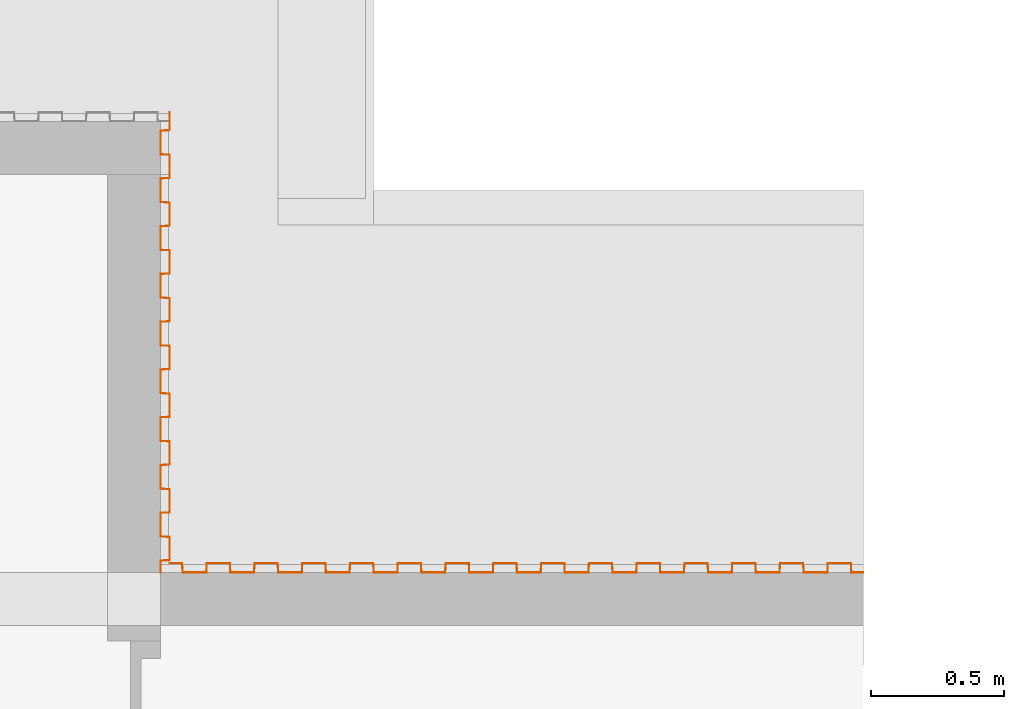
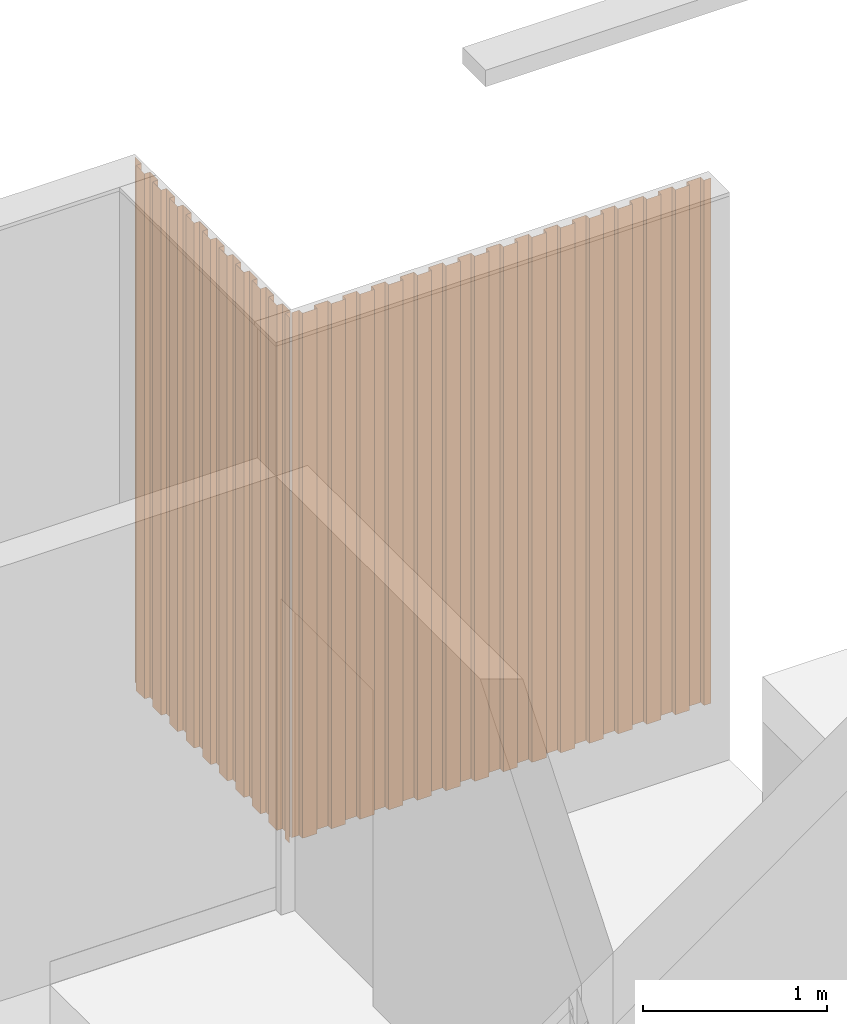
# One storey, part 21 of 22: 2 proxies.
"""IFC2X3 building model written with IfcOpenShell, lengths in millimetres."""

from ifc_helpers import new_model, entity, si_unit, converted_unit, derived_unit, money_unit, direction, frame, origin_with_axes, place, context, subcontext, project, spatial, faceted_brep, material, type_object, element, save


model = new_model("IFC2X3")

# Units and contexts
model_context = context("Model", 3, precision=0.01, world=origin_with_axes(), true_north=direction((0.0, 1.0)))
body_context = subcontext(model_context, "Body", "Model", "MODEL_VIEW")
ifc_project = project(units=[si_unit("LENGTHUNIT", "METRE", prefix="MILLI"), si_unit("AREAUNIT", "SQUARE_METRE"), si_unit("VOLUMEUNIT", "CUBIC_METRE"), converted_unit("PLANEANGLEUNIT", "DEGREE", entity("IfcPlaneAngleMeasure", 0.0174532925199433), si_unit("PLANEANGLEUNIT", "RADIAN"), dimensions=[0, 0, 0, 0, 0, 0, 0]), money_unit("EUR"), converted_unit("TIMEUNIT", "Year", entity("IfcTimeMeasure", 31557600.0), si_unit("TIMEUNIT", "SECOND"), dimensions=[0, 0, 1, 0, 0, 0, 0]), si_unit("MASSUNIT", "GRAM", prefix="KILO"), si_unit("THERMODYNAMICTEMPERATUREUNIT", "DEGREE_CELSIUS"), si_unit("LUMINOUSINTENSITYUNIT", "LUMEN"), si_unit("ENERGYUNIT", "JOULE", prefix="MEGA"), derived_unit("THERMALCONDUCTANCEUNIT", [(si_unit("POWERUNIT", "WATT"), 1), (si_unit("LENGTHUNIT", "METRE"), -1), (si_unit("THERMODYNAMICTEMPERATUREUNIT", "KELVIN"), -1)]), derived_unit("SPECIFICHEATCAPACITYUNIT", [(si_unit("ENERGYUNIT", "JOULE"), 1), (si_unit("MASSUNIT", "GRAM", prefix="KILO"), -1), (si_unit("THERMODYNAMICTEMPERATUREUNIT", "KELVIN"), -1)]), derived_unit("MASSDENSITYUNIT", [(si_unit("MASSUNIT", "GRAM", prefix="KILO"), 1), (si_unit("VOLUMEUNIT", "CUBIC_METRE"), -1)])], contexts=[model_context])

# Site, building, storey
site_placement = place(None, origin_with_axes())
site = spatial("IfcSite", under=ifc_project, at=site_placement, Name="Site", CompositionType="ELEMENT")
building_placement = place(site_placement, origin_with_axes())
building = spatial("IfcBuilding", under=site, at=building_placement, Name="Naam gebouw", CompositionType="ELEMENT")
storey_placement = place(building_placement, frame((0.0, 0.0, 11150.0), z_axis=(0.0, 0.0, 1.0), x_axis=(1.0, 0.0, 0.0)))
storey = spatial("IfcBuildingStorey", under=building, at=storey_placement, Name="3e verdieping/dak N", CompositionType="ELEMENT", Elevation=11150.0)

# Proxies
ifc_material = material(Name="Metaal - Staal AFW")
building_element_proxy_type = type_object("IfcBuildingElementProxyType", Name="Profielplaat 26", PredefinedType="NOTDEFINED")
proxy_1_placement = place(storey_placement, frame((17557.7397738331, 16515.91242510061, 253.9999999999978), z_axis=(0.0, 0.0, 1.0), x_axis=(1.0, 0.0, 0.0)))
element("IfcBuildingElementProxy", 1, at=proxy_1_placement, inside=storey, type_object=building_element_proxy_type, material=ifc_material, Name="_Boom-x", context=body_context, shape_type="Brep", body=[
    faceted_brep([(0.0, 0.0, 0.0), (0.0, 0.0, 3486.000000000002), (0.0, 45.00000000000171, 3486.000000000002), (0.0, 45.00000000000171, 0.0), (0.7, 0.0, 0.0), (0.7, 0.0, 3486.000000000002), (0.6999999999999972, 44.33319049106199, 3486.000000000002), (35.0, 46.00000000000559, 3486.000000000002), (34.99999999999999, 134.0000000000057, 3486.000000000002), (0.6999999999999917, 135.6668095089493, 3486.000000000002), (0.6999999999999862, 224.3331904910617, 3486.000000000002), (34.99999999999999, 226.0000000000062, 3486.000000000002), (34.99999999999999, 314.0000000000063, 3486.000000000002), (0.6999999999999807, 315.6668095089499, 3486.000000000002), (0.6999999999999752, 404.3331904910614, 3486.000000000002), (34.99999999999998, 406.0000000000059, 3486.000000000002), (34.99999999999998, 494.000000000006, 3486.000000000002), (0.6999999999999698, 495.6668095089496, 3486.000000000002), (0.6999999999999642, 584.3331904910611, 3486.000000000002), (34.99999999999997, 586.0000000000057, 3486.000000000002), (34.99999999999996, 674.0000000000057, 3486.000000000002), (0.6999999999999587, 675.6668095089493, 3486.000000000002), (0.6999999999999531, 764.3331904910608, 3486.000000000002), (34.99999999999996, 766.0000000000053, 3486.000000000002), (34.99999999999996, 854.0000000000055, 3486.000000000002), (0.6999999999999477, 855.666809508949, 3486.000000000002), (0.6999999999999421, 944.3331904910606, 3486.000000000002), (34.99999999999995, 946.000000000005, 3486.000000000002), (34.99999999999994, 1034.000000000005, 3486.000000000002), (0.6999999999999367, 1035.666809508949, 3486.000000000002), (0.6999999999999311, 1124.33319049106, 3486.000000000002), (34.99999999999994, 1126.000000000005, 3486.000000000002), (34.99999999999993, 1214.000000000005, 3486.000000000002), (0.6999999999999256, 1215.666809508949, 3486.000000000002), (0.6999999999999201, 1304.33319049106, 3486.000000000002), (34.99999999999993, 1306.000000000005, 3486.000000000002), (34.99999999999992, 1394.000000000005, 3486.000000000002), (0.6999999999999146, 1395.666809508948, 3486.000000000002), (0.699999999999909, 1484.33319049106, 3486.000000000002), (34.99999999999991, 1486.000000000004, 3486.000000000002), (34.99999999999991, 1574.000000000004, 3486.000000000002), (0.6999999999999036, 1575.666809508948, 3486.000000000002), (0.699999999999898, 1664.333190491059, 3486.000000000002), (34.9999999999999, 1666.000000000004, 3486.000000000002), (34.9999999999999, 1734.999999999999, 3486.000000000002), (34.2999999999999, 1734.999999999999, 3486.000000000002), (34.2999999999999, 1666.666809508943, 3486.000000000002), (0.0, 1664.999999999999, 3486.000000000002), (0.0, 1574.999999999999, 3486.000000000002), (34.2999999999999, 1573.333190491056, 3486.000000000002), (34.29999999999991, 1486.666809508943, 3486.000000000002), (0.0, 1485.0, 3486.000000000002), (0.0, 1395.0, 3486.000000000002), (34.29999999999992, 1393.333190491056, 3486.000000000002), (34.29999999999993, 1306.666809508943, 3486.000000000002), (0.0, 1305.0, 3486.000000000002), (0.0, 1215.0, 3486.000000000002), (34.29999999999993, 1213.333190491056, 3486.000000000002), (34.29999999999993, 1126.666809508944, 3486.000000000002), (0.0, 1125.0, 3486.000000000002), (0.0, 1035.0, 3486.000000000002), (34.29999999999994, 1033.333190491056, 3486.000000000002), (34.29999999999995, 946.6668095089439, 3486.000000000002), (0.0, 945.0000000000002, 3486.000000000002), (0.0, 855.0000000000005, 3486.000000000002), (34.29999999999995, 853.3331904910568, 3486.000000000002), (34.29999999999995, 766.6668095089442, 3486.000000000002), (0.0, 765.0000000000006, 3486.000000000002), (0.0, 675.0000000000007, 3486.000000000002), (34.29999999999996, 673.3331904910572, 3486.000000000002), (34.29999999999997, 586.6668095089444, 3486.000000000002), (0.0, 585.0000000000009, 3486.000000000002), (0.0, 495.000000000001, 3486.000000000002), (34.29999999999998, 493.3331904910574, 3486.000000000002), (34.29999999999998, 406.6668095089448, 3486.000000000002), (0.0, 405.0000000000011, 3486.000000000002), (0.0, 315.0000000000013, 3486.000000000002), (34.29999999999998, 313.3331904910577, 3486.000000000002), (34.29999999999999, 226.666809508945, 3486.000000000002), (0.0, 225.0000000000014, 3486.000000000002), (0.0, 135.0000000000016, 3486.000000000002), (34.3, 133.3331904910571, 3486.000000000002), (34.3, 46.66680950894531, 3486.000000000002), (34.3, 46.66680950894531, 0.0), (34.3, 133.3331904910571, 0.0), (0.0, 135.0000000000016, 0.0), (0.0, 225.0000000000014, 0.0), (34.29999999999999, 226.666809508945, 0.0), (34.29999999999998, 313.3331904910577, 0.0), (0.0, 315.0000000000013, 0.0), (0.0, 405.0000000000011, 0.0), (34.29999999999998, 406.6668095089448, 0.0), (34.29999999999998, 493.3331904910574, 0.0), (0.0, 495.000000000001, 0.0), (0.0, 585.0000000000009, 0.0), (34.29999999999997, 586.6668095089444, 0.0), (34.29999999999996, 673.3331904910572, 0.0), (0.0, 675.0000000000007, 0.0), (0.0, 765.0000000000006, 0.0), (34.29999999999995, 766.6668095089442, 0.0), (34.29999999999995, 853.3331904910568, 0.0), (0.0, 855.0000000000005, 0.0), (0.0, 945.0000000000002, 0.0), (34.29999999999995, 946.6668095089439, 0.0), (34.29999999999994, 1033.333190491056, 0.0), (0.0, 1035.0, 0.0), (0.0, 1125.0, 0.0), (34.29999999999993, 1126.666809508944, 0.0), (34.29999999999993, 1213.333190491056, 0.0), (0.0, 1215.0, 0.0), (0.0, 1305.0, 0.0), (34.29999999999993, 1306.666809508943, 0.0), (34.29999999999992, 1393.333190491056, 0.0), (0.0, 1395.0, 0.0), (0.0, 1485.0, 0.0), (34.29999999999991, 1486.666809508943, 0.0), (34.2999999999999, 1573.333190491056, 0.0), (0.0, 1574.999999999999, 0.0), (0.0, 1664.999999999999, 0.0), (34.2999999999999, 1666.666809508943, 0.0), (34.2999999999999, 1734.999999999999, 0.0), (34.9999999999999, 1734.999999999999, 0.0), (34.9999999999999, 1666.000000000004, 0.0), (0.699999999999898, 1664.333190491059, 0.0), (0.6999999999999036, 1575.666809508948, 0.0), (34.99999999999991, 1574.000000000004, 0.0), (34.99999999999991, 1486.000000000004, 0.0), (0.699999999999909, 1484.33319049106, 0.0), (0.6999999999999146, 1395.666809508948, 0.0), (34.99999999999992, 1394.000000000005, 0.0), (34.99999999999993, 1306.000000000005, 0.0), (0.6999999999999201, 1304.33319049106, 0.0), (0.6999999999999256, 1215.666809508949, 0.0), (34.99999999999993, 1214.000000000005, 0.0), (34.99999999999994, 1126.000000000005, 0.0), (0.6999999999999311, 1124.33319049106, 0.0), (0.6999999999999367, 1035.666809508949, 0.0), (34.99999999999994, 1034.000000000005, 0.0), (34.99999999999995, 946.000000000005, 0.0), (0.6999999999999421, 944.3331904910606, 0.0), (0.6999999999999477, 855.666809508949, 0.0), (34.99999999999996, 854.0000000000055, 0.0), (34.99999999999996, 766.0000000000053, 0.0), (0.6999999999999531, 764.3331904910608, 0.0), (0.6999999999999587, 675.6668095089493, 0.0), (34.99999999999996, 674.0000000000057, 0.0), (34.99999999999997, 586.0000000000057, 0.0), (0.6999999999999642, 584.3331904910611, 0.0), (0.6999999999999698, 495.6668095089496, 0.0), (34.99999999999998, 494.000000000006, 0.0), (34.99999999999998, 406.0000000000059, 0.0), (0.6999999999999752, 404.3331904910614, 0.0), (0.6999999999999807, 315.6668095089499, 0.0), (34.99999999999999, 314.0000000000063, 0.0), (34.99999999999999, 226.0000000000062, 0.0), (0.6999999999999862, 224.3331904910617, 0.0), (0.6999999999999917, 135.6668095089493, 0.0), (34.99999999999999, 134.0000000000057, 0.0), (35.0, 46.00000000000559, 0.0), (0.6999999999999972, 44.33319049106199, 0.0)], [[[0, 1, 2, 3]], [[0, 4, 5, 1]], [[2, 1, 5, 6, 7, 8, 9, 10, 11, 12, 13, 14, 15, 16, 17, 18, 19, 20, 21, 22, 23, 24, 25, 26, 27, 28, 29, 30, 31, 32, 33, 34, 35, 36, 37, 38, 39, 40, 41, 42, 43, 44, 45, 46, 47, 48, 49, 50, 51, 52, 53, 54, 55, 56, 57, 58, 59, 60, 61, 62, 63, 64, 65, 66, 67, 68, 69, 70, 71, 72, 73, 74, 75, 76, 77, 78, 79, 80, 81, 82]], [[3, 2, 82, 83]], [[4, 0, 3, 83, 84, 85, 86, 87, 88, 89, 90, 91, 92, 93, 94, 95, 96, 97, 98, 99, 100, 101, 102, 103, 104, 105, 106, 107, 108, 109, 110, 111, 112, 113, 114, 115, 116, 117, 118, 119, 120, 121, 122, 123, 124, 125, 126, 127, 128, 129, 130, 131, 132, 133, 134, 135, 136, 137, 138, 139, 140, 141, 142, 143, 144, 145, 146, 147, 148, 149, 150, 151, 152, 153, 154, 155, 156, 157, 158, 159]], [[159, 6, 5, 4]], [[158, 7, 6, 159]], [[157, 8, 7, 158]], [[156, 9, 8, 157]], [[155, 10, 9, 156]], [[154, 11, 10, 155]], [[153, 12, 11, 154]], [[152, 13, 12, 153]], [[151, 14, 13, 152]], [[150, 15, 14, 151]], [[149, 16, 15, 150]], [[148, 17, 16, 149]], [[147, 18, 17, 148]], [[146, 19, 18, 147]], [[145, 20, 19, 146]], [[144, 21, 20, 145]], [[143, 22, 21, 144]], [[142, 23, 22, 143]], [[141, 24, 23, 142]], [[140, 25, 24, 141]], [[139, 26, 25, 140]], [[138, 27, 26, 139]], [[137, 28, 27, 138]], [[136, 29, 28, 137]], [[135, 30, 29, 136]], [[134, 31, 30, 135]], [[133, 32, 31, 134]], [[132, 33, 32, 133]], [[131, 34, 33, 132]], [[130, 35, 34, 131]], [[129, 36, 35, 130]], [[128, 37, 36, 129]], [[127, 38, 37, 128]], [[126, 39, 38, 127]], [[125, 40, 39, 126]], [[124, 41, 40, 125]], [[123, 42, 41, 124]], [[122, 43, 42, 123]], [[121, 44, 43, 122]], [[120, 45, 44, 121]], [[119, 46, 45, 120]], [[118, 47, 46, 119]], [[117, 48, 47, 118]], [[116, 49, 48, 117]], [[115, 50, 49, 116]], [[114, 51, 50, 115]], [[113, 52, 51, 114]], [[112, 53, 52, 113]], [[111, 54, 53, 112]], [[110, 55, 54, 111]], [[109, 56, 55, 110]], [[108, 57, 56, 109]], [[107, 58, 57, 108]], [[106, 59, 58, 107]], [[105, 60, 59, 106]], [[104, 61, 60, 105]], [[103, 62, 61, 104]], [[102, 63, 62, 103]], [[101, 64, 63, 102]], [[100, 65, 64, 101]], [[99, 66, 65, 100]], [[98, 67, 66, 99]], [[97, 68, 67, 98]], [[96, 69, 68, 97]], [[95, 70, 69, 96]], [[94, 71, 70, 95]], [[93, 72, 71, 94]], [[92, 73, 72, 93]], [[91, 74, 73, 92]], [[90, 75, 74, 91]], [[89, 76, 75, 90]], [[88, 77, 76, 89]], [[87, 78, 77, 88]], [[86, 79, 78, 87]], [[85, 80, 79, 86]], [[84, 81, 80, 85]], [[83, 82, 81, 84]]]),
])
proxy_2_placement = place(storey_placement, frame((20206.00000000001, 16515.91242510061, 253.9999999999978), z_axis=(0.0, 0.0, 1.0), x_axis=(0.0, 1.0, 0.0)))
element("IfcBuildingElementProxy", 2, at=proxy_2_placement, inside=storey, type_object=building_element_proxy_type, material=ifc_material, Name="_Boom-x", context=body_context, shape_type="Brep", body=[
    faceted_brep([(0.0, 0.0, 0.0), (0.0, 0.0, 3486.000000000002), (0.0, 45.00000000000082, 3486.000000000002), (0.0, 45.00000000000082, 0.0), (0.7000000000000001, 0.0, 0.0), (0.7000000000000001, 0.0, 3486.000000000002), (0.6999999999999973, 44.33319049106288, 3486.000000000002), (35.0, 46.00000000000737, 3486.000000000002), (34.99999999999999, 134.0000000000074, 3486.000000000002), (0.6999999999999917, 135.666809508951, 3486.000000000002), (0.6999999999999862, 224.3331904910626, 3486.000000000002), (34.99999999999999, 226.0000000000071, 3486.000000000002), (34.99999999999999, 314.0000000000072, 3486.000000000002), (0.6999999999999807, 315.6668095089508, 3486.000000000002), (0.6999999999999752, 404.3331904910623, 3486.000000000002), (34.99999999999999, 406.0000000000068, 3486.000000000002), (34.99999999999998, 494.0000000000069, 3486.000000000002), (0.6999999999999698, 495.6668095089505, 3486.000000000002), (0.6999999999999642, 584.333190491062, 3486.000000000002), (34.99999999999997, 586.0000000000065, 3486.000000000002), (34.99999999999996, 674.0000000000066, 3486.000000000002), (0.6999999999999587, 675.6668095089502, 3486.000000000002), (0.6999999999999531, 764.3331904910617, 3486.000000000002), (34.99999999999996, 766.0000000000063, 3486.000000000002), (34.99999999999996, 854.0000000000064, 3486.000000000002), (0.6999999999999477, 855.6668095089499, 3486.000000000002), (0.6999999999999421, 944.3331904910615, 3486.000000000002), (34.99999999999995, 946.0000000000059, 3486.000000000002), (34.99999999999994, 1034.000000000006, 3486.000000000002), (0.6999999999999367, 1035.66680950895, 3486.000000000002), (0.6999999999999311, 1124.333190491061, 3486.000000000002), (34.99999999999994, 1126.000000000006, 3486.000000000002), (34.99999999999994, 1214.000000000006, 3486.000000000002), (0.6999999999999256, 1215.666809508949, 3486.000000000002), (0.6999999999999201, 1304.333190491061, 3486.000000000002), (34.99999999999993, 1306.000000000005, 3486.000000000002), (34.99999999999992, 1394.000000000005, 3486.000000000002), (0.6999999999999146, 1395.666809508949, 3486.000000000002), (0.699999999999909, 1484.333190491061, 3486.000000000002), (34.99999999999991, 1486.000000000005, 3486.000000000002), (34.99999999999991, 1574.000000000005, 3486.000000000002), (0.6999999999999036, 1575.666809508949, 3486.000000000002), (0.699999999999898, 1664.33319049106, 3486.000000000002), (34.99999999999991, 1666.000000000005, 3486.000000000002), (34.9999999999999, 1754.000000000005, 3486.000000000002), (0.6999999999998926, 1755.666809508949, 3486.000000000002), (0.699999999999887, 1844.33319049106, 3486.000000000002), (34.99999999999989, 1846.000000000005, 3486.000000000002), (34.99999999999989, 1934.000000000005, 3486.000000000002), (0.6999999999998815, 1935.666809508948, 3486.000000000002), (0.6999999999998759, 2024.33319049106, 3486.000000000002), (34.99999999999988, 2026.000000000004, 3486.000000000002), (34.99999999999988, 2114.000000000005, 3486.000000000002), (0.6999999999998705, 2115.666809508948, 3486.000000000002), (0.6999999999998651, 2204.33319049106, 3486.000000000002), (34.99999999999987, 2206.000000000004, 3486.000000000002), (34.99999999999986, 2294.000000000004, 3486.000000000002), (0.6999999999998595, 2295.666809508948, 3486.000000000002), (0.699999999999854, 2384.333190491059, 3486.000000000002), (34.99999999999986, 2386.000000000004, 3486.000000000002), (34.99999999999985, 2474.000000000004, 3486.000000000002), (0.6999999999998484, 2475.666809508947, 3486.000000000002), (0.6999999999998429, 2564.333190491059, 3486.000000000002), (34.99999999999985, 2566.000000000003, 3486.000000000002), (34.99999999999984, 2613.260226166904, 3486.000000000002), (34.29999999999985, 2613.260226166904, 3486.000000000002), (34.29999999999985, 2566.66680950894, 3486.000000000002), (0.0, 2564.999999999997, 3486.000000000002), (0.0, 2474.999999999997, 3486.000000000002), (34.29999999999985, 2473.333190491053, 3486.000000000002), (34.29999999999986, 2386.666809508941, 3486.000000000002), (0.0, 2384.999999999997, 3486.000000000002), (0.0, 2294.999999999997, 3486.000000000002), (34.29999999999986, 2293.333190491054, 3486.000000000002), (34.29999999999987, 2206.666809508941, 3486.000000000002), (0.0, 2204.999999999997, 3486.000000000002), (0.0, 2114.999999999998, 3486.000000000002), (34.29999999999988, 2113.333190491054, 3486.000000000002), (34.29999999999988, 2026.666809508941, 3486.000000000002), (0.0, 2024.999999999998, 3486.000000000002), (0.0, 1934.999999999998, 3486.000000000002), (34.29999999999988, 1933.333190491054, 3486.000000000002), (34.29999999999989, 1846.666809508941, 3486.000000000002), (0.0, 1844.999999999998, 3486.000000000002), (0.0, 1754.999999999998, 3486.000000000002), (34.2999999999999, 1753.333190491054, 3486.000000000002), (34.2999999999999, 1666.666809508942, 3486.000000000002), (0.0, 1664.999999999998, 3486.000000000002), (0.0, 1574.999999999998, 3486.000000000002), (34.2999999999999, 1573.333190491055, 3486.000000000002), (34.29999999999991, 1486.666809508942, 3486.000000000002), (0.0, 1484.999999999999, 3486.000000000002), (0.0, 1394.999999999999, 3486.000000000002), (34.29999999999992, 1393.333190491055, 3486.000000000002), (34.29999999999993, 1306.666809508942, 3486.000000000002), (0.0, 1304.999999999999, 3486.000000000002), (0.0, 1214.999999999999, 3486.000000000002), (34.29999999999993, 1213.333190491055, 3486.000000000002), (34.29999999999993, 1126.666809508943, 3486.000000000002), (0.0, 1124.999999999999, 3486.000000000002), (0.0, 1034.999999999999, 3486.000000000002), (34.29999999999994, 1033.333190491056, 3486.000000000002), (34.29999999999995, 946.666809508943, 3486.000000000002), (0.0, 944.9999999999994, 3486.000000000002), (0.0, 854.9999999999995, 3486.000000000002), (34.29999999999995, 853.3331904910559, 3486.000000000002), (34.29999999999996, 766.6668095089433, 3486.000000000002), (0.0, 764.9999999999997, 3486.000000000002), (0.0, 674.9999999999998, 3486.000000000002), (34.29999999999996, 673.3331904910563, 3486.000000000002), (34.29999999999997, 586.6668095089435, 3486.000000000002), (0.0, 585.0, 3486.000000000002), (0.0, 495.0000000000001, 3486.000000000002), (34.29999999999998, 493.3331904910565, 3486.000000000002), (34.29999999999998, 406.6668095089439, 3486.000000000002), (0.0, 405.0000000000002, 3486.000000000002), (0.0, 315.0000000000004, 3486.000000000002), (34.29999999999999, 313.3331904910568, 3486.000000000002), (34.29999999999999, 226.6668095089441, 3486.000000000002), (0.0, 225.0000000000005, 3486.000000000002), (0.0, 135.0000000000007, 3486.000000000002), (34.3, 133.3331904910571, 3486.000000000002), (34.3, 46.66680950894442, 3486.000000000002), (34.3, 46.66680950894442, 0.0), (34.3, 133.3331904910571, 0.0), (0.0, 135.0000000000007, 0.0), (0.0, 225.0000000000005, 0.0), (34.29999999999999, 226.6668095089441, 0.0), (34.29999999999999, 313.3331904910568, 0.0), (0.0, 315.0000000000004, 0.0), (0.0, 405.0000000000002, 0.0), (34.29999999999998, 406.6668095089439, 0.0), (34.29999999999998, 493.3331904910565, 0.0), (0.0, 495.0000000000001, 0.0), (0.0, 585.0, 0.0), (34.29999999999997, 586.6668095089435, 0.0), (34.29999999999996, 673.3331904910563, 0.0), (0.0, 674.9999999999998, 0.0), (0.0, 764.9999999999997, 0.0), (34.29999999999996, 766.6668095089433, 0.0), (34.29999999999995, 853.3331904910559, 0.0), (0.0, 854.9999999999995, 0.0), (0.0, 944.9999999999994, 0.0), (34.29999999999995, 946.666809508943, 0.0), (34.29999999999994, 1033.333190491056, 0.0), (0.0, 1034.999999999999, 0.0), (0.0, 1124.999999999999, 0.0), (34.29999999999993, 1126.666809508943, 0.0), (34.29999999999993, 1213.333190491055, 0.0), (0.0, 1214.999999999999, 0.0), (0.0, 1304.999999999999, 0.0), (34.29999999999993, 1306.666809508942, 0.0), (34.29999999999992, 1393.333190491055, 0.0), (0.0, 1394.999999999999, 0.0), (0.0, 1484.999999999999, 0.0), (34.29999999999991, 1486.666809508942, 0.0), (34.2999999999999, 1573.333190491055, 0.0), (0.0, 1574.999999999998, 0.0), (0.0, 1664.999999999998, 0.0), (34.2999999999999, 1666.666809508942, 0.0), (34.2999999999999, 1753.333190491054, 0.0), (0.0, 1754.999999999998, 0.0), (0.0, 1844.999999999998, 0.0), (34.29999999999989, 1846.666809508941, 0.0), (34.29999999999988, 1933.333190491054, 0.0), (0.0, 1934.999999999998, 0.0), (0.0, 2024.999999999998, 0.0), (34.29999999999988, 2026.666809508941, 0.0), (34.29999999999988, 2113.333190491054, 0.0), (0.0, 2114.999999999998, 0.0), (0.0, 2204.999999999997, 0.0), (34.29999999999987, 2206.666809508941, 0.0), (34.29999999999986, 2293.333190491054, 0.0), (0.0, 2294.999999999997, 0.0), (0.0, 2384.999999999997, 0.0), (34.29999999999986, 2386.666809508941, 0.0), (34.29999999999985, 2473.333190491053, 0.0), (0.0, 2474.999999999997, 0.0), (0.0, 2564.999999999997, 0.0), (34.29999999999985, 2566.66680950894, 0.0), (34.29999999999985, 2613.260226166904, 0.0), (34.99999999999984, 2613.260226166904, 0.0), (34.99999999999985, 2566.000000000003, 0.0), (0.6999999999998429, 2564.333190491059, 0.0), (0.6999999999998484, 2475.666809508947, 0.0), (34.99999999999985, 2474.000000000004, 0.0), (34.99999999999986, 2386.000000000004, 0.0), (0.699999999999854, 2384.333190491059, 0.0), (0.6999999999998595, 2295.666809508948, 0.0), (34.99999999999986, 2294.000000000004, 0.0), (34.99999999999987, 2206.000000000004, 0.0), (0.6999999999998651, 2204.33319049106, 0.0), (0.6999999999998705, 2115.666809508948, 0.0), (34.99999999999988, 2114.000000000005, 0.0), (34.99999999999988, 2026.000000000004, 0.0), (0.6999999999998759, 2024.33319049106, 0.0), (0.6999999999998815, 1935.666809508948, 0.0), (34.99999999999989, 1934.000000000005, 0.0), (34.99999999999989, 1846.000000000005, 0.0), (0.699999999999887, 1844.33319049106, 0.0), (0.6999999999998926, 1755.666809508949, 0.0), (34.9999999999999, 1754.000000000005, 0.0), (34.99999999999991, 1666.000000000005, 0.0), (0.699999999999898, 1664.33319049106, 0.0), (0.6999999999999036, 1575.666809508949, 0.0), (34.99999999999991, 1574.000000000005, 0.0), (34.99999999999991, 1486.000000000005, 0.0), (0.699999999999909, 1484.333190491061, 0.0), (0.6999999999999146, 1395.666809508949, 0.0), (34.99999999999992, 1394.000000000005, 0.0), (34.99999999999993, 1306.000000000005, 0.0), (0.6999999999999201, 1304.333190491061, 0.0), (0.6999999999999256, 1215.666809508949, 0.0), (34.99999999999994, 1214.000000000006, 0.0), (34.99999999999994, 1126.000000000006, 0.0), (0.6999999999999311, 1124.333190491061, 0.0), (0.6999999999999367, 1035.66680950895, 0.0), (34.99999999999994, 1034.000000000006, 0.0), (34.99999999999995, 946.0000000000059, 0.0), (0.6999999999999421, 944.3331904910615, 0.0), (0.6999999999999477, 855.6668095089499, 0.0), (34.99999999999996, 854.0000000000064, 0.0), (34.99999999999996, 766.0000000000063, 0.0), (0.6999999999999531, 764.3331904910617, 0.0), (0.6999999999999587, 675.6668095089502, 0.0), (34.99999999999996, 674.0000000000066, 0.0), (34.99999999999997, 586.0000000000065, 0.0), (0.6999999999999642, 584.333190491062, 0.0), (0.6999999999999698, 495.6668095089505, 0.0), (34.99999999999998, 494.0000000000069, 0.0), (34.99999999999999, 406.0000000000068, 0.0), (0.6999999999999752, 404.3331904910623, 0.0), (0.6999999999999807, 315.6668095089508, 0.0), (34.99999999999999, 314.0000000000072, 0.0), (34.99999999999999, 226.0000000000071, 0.0), (0.6999999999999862, 224.3331904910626, 0.0), (0.6999999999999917, 135.666809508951, 0.0), (34.99999999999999, 134.0000000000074, 0.0), (35.0, 46.00000000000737, 0.0), (0.6999999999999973, 44.33319049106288, 0.0)], [[[0, 1, 2, 3]], [[0, 4, 5, 1]], [[2, 1, 5, 6, 7, 8, 9, 10, 11, 12, 13, 14, 15, 16, 17, 18, 19, 20, 21, 22, 23, 24, 25, 26, 27, 28, 29, 30, 31, 32, 33, 34, 35, 36, 37, 38, 39, 40, 41, 42, 43, 44, 45, 46, 47, 48, 49, 50, 51, 52, 53, 54, 55, 56, 57, 58, 59, 60, 61, 62, 63, 64, 65, 66, 67, 68, 69, 70, 71, 72, 73, 74, 75, 76, 77, 78, 79, 80, 81, 82, 83, 84, 85, 86, 87, 88, 89, 90, 91, 92, 93, 94, 95, 96, 97, 98, 99, 100, 101, 102, 103, 104, 105, 106, 107, 108, 109, 110, 111, 112, 113, 114, 115, 116, 117, 118, 119, 120, 121, 122]], [[3, 2, 122, 123]], [[4, 0, 3, 123, 124, 125, 126, 127, 128, 129, 130, 131, 132, 133, 134, 135, 136, 137, 138, 139, 140, 141, 142, 143, 144, 145, 146, 147, 148, 149, 150, 151, 152, 153, 154, 155, 156, 157, 158, 159, 160, 161, 162, 163, 164, 165, 166, 167, 168, 169, 170, 171, 172, 173, 174, 175, 176, 177, 178, 179, 180, 181, 182, 183, 184, 185, 186, 187, 188, 189, 190, 191, 192, 193, 194, 195, 196, 197, 198, 199, 200, 201, 202, 203, 204, 205, 206, 207, 208, 209, 210, 211, 212, 213, 214, 215, 216, 217, 218, 219, 220, 221, 222, 223, 224, 225, 226, 227, 228, 229, 230, 231, 232, 233, 234, 235, 236, 237, 238, 239]], [[239, 6, 5, 4]], [[238, 7, 6, 239]], [[237, 8, 7, 238]], [[236, 9, 8, 237]], [[235, 10, 9, 236]], [[234, 11, 10, 235]], [[233, 12, 11, 234]], [[232, 13, 12, 233]], [[231, 14, 13, 232]], [[230, 15, 14, 231]], [[229, 16, 15, 230]], [[228, 17, 16, 229]], [[227, 18, 17, 228]], [[226, 19, 18, 227]], [[225, 20, 19, 226]], [[224, 21, 20, 225]], [[223, 22, 21, 224]], [[222, 23, 22, 223]], [[221, 24, 23, 222]], [[220, 25, 24, 221]], [[219, 26, 25, 220]], [[218, 27, 26, 219]], [[217, 28, 27, 218]], [[216, 29, 28, 217]], [[215, 30, 29, 216]], [[214, 31, 30, 215]], [[213, 32, 31, 214]], [[212, 33, 32, 213]], [[211, 34, 33, 212]], [[210, 35, 34, 211]], [[209, 36, 35, 210]], [[208, 37, 36, 209]], [[207, 38, 37, 208]], [[206, 39, 38, 207]], [[205, 40, 39, 206]], [[204, 41, 40, 205]], [[203, 42, 41, 204]], [[202, 43, 42, 203]], [[201, 44, 43, 202]], [[200, 45, 44, 201]], [[199, 46, 45, 200]], [[198, 47, 46, 199]], [[197, 48, 47, 198]], [[196, 49, 48, 197]], [[195, 50, 49, 196]], [[194, 51, 50, 195]], [[193, 52, 51, 194]], [[192, 53, 52, 193]], [[191, 54, 53, 192]], [[190, 55, 54, 191]], [[189, 56, 55, 190]], [[188, 57, 56, 189]], [[187, 58, 57, 188]], [[186, 59, 58, 187]], [[185, 60, 59, 186]], [[184, 61, 60, 185]], [[183, 62, 61, 184]], [[182, 63, 62, 183]], [[181, 64, 63, 182]], [[180, 65, 64, 181]], [[179, 66, 65, 180]], [[178, 67, 66, 179]], [[177, 68, 67, 178]], [[176, 69, 68, 177]], [[175, 70, 69, 176]], [[174, 71, 70, 175]], [[173, 72, 71, 174]], [[172, 73, 72, 173]], [[171, 74, 73, 172]], [[170, 75, 74, 171]], [[169, 76, 75, 170]], [[168, 77, 76, 169]], [[167, 78, 77, 168]], [[166, 79, 78, 167]], [[165, 80, 79, 166]], [[164, 81, 80, 165]], [[163, 82, 81, 164]], [[162, 83, 82, 163]], [[161, 84, 83, 162]], [[160, 85, 84, 161]], [[159, 86, 85, 160]], [[158, 87, 86, 159]], [[157, 88, 87, 158]], [[156, 89, 88, 157]], [[155, 90, 89, 156]], [[154, 91, 90, 155]], [[153, 92, 91, 154]], [[152, 93, 92, 153]], [[151, 94, 93, 152]], [[150, 95, 94, 151]], [[149, 96, 95, 150]], [[148, 97, 96, 149]], [[147, 98, 97, 148]], [[146, 99, 98, 147]], [[145, 100, 99, 146]], [[144, 101, 100, 145]], [[143, 102, 101, 144]], [[142, 103, 102, 143]], [[141, 104, 103, 142]], [[140, 105, 104, 141]], [[139, 106, 105, 140]], [[138, 107, 106, 139]], [[137, 108, 107, 138]], [[136, 109, 108, 137]], [[135, 110, 109, 136]], [[134, 111, 110, 135]], [[133, 112, 111, 134]], [[132, 113, 112, 133]], [[131, 114, 113, 132]], [[130, 115, 114, 131]], [[129, 116, 115, 130]], [[128, 117, 116, 129]], [[127, 118, 117, 128]], [[126, 119, 118, 127]], [[125, 120, 119, 126]], [[124, 121, 120, 125]], [[123, 122, 121, 124]]]),
])

save(model, "model.ifc")
